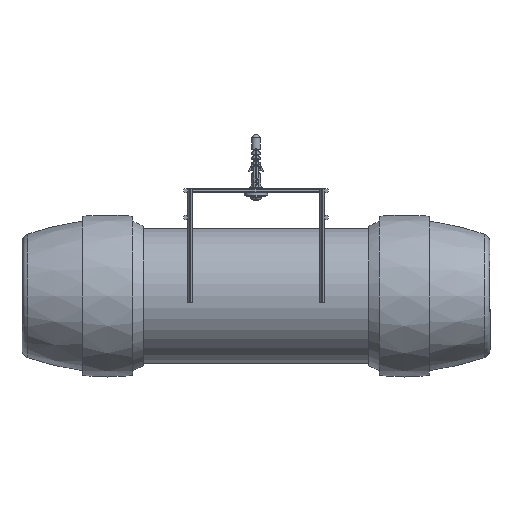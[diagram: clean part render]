
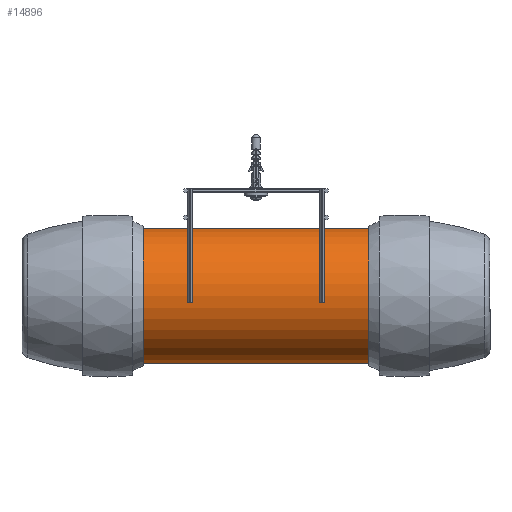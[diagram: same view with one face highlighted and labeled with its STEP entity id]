
A CAD part, front view. The second image highlights one B-rep face of the part: STEP entity #14896.
In plain terms, the highlighted cylindrical face has radius 63 mm (diameter 126 mm), a full revolution.
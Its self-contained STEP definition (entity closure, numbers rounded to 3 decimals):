
#940=CIRCLE('',#16482,63.);
#941=CIRCLE('',#16484,63.);
#1053=CYLINDRICAL_SURFACE('',#16483,63.);
#2125=FACE_OUTER_BOUND('',#2957,.T.);
#2957=EDGE_LOOP('',(#13470,#13471,#13472,#13473));
#4316=LINE('',#26439,#5666);
#5666=VECTOR('',#20519,63.);
#7040=VERTEX_POINT('',#26434);
#7041=VERTEX_POINT('',#26437);
#9187=EDGE_CURVE('',#7040,#7040,#940,.T.);
#9188=EDGE_CURVE('',#7041,#7041,#941,.T.);
#9189=EDGE_CURVE('',#7041,#7040,#4316,.T.);
#13470=ORIENTED_EDGE('',*,*,#9188,.F.);
#13471=ORIENTED_EDGE('',*,*,#9189,.T.);
#13472=ORIENTED_EDGE('',*,*,#9187,.T.);
#13473=ORIENTED_EDGE('',*,*,#9189,.F.);
#14896=ADVANCED_FACE('',(#2125),#1053,.T.);
#16482=AXIS2_PLACEMENT_3D('',#26435,#20513,#20514);
#16483=AXIS2_PLACEMENT_3D('',#26436,#20515,#20516);
#16484=AXIS2_PLACEMENT_3D('',#26438,#20517,#20518);
#20513=DIRECTION('center_axis',(1.,0.,0.));
#20514=DIRECTION('ref_axis',(0.,-1.,0.));
#20515=DIRECTION('center_axis',(1.,0.,0.));
#20516=DIRECTION('ref_axis',(0.,-1.,0.));
#20517=DIRECTION('center_axis',(1.,0.,0.));
#20518=DIRECTION('ref_axis',(0.,-1.,0.));
#20519=DIRECTION('',(-1.,0.,0.));
#26434=CARTESIAN_POINT('',(-105.,63.,0.));
#26435=CARTESIAN_POINT('Origin',(-105.,0.,0.));
#26436=CARTESIAN_POINT('Origin',(52.5,0.,0.));
#26437=CARTESIAN_POINT('',(105.,63.,0.));
#26438=CARTESIAN_POINT('Origin',(105.,0.,0.));
#26439=CARTESIAN_POINT('',(52.5,63.,0.));
